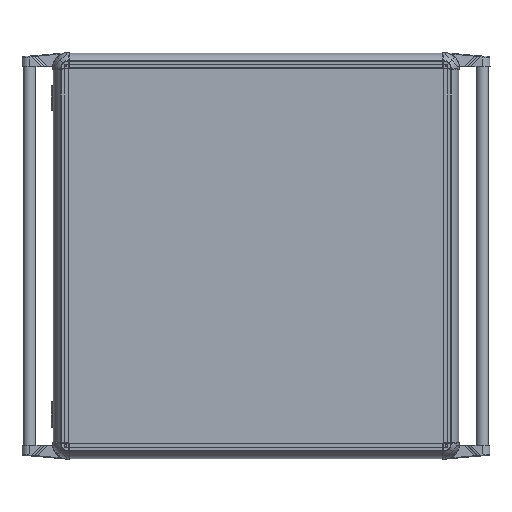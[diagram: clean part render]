
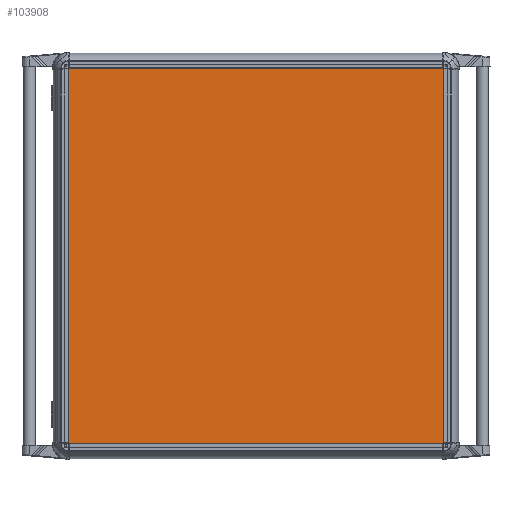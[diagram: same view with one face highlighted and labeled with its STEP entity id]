
A CAD part, top view. The second image highlights one B-rep face of the part: STEP entity #103908.
In plain terms, the highlighted planar face has unit normal (0, 0, 1).
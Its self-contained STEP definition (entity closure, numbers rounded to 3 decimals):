
#9688 = DIRECTION ( 'NONE',  ( -1., 0., 0. ) ) ;
#10844 = CARTESIAN_POINT ( 'NONE',  ( -300., 300., 2. ) ) ;
#15819 = EDGE_CURVE ( 'NONE', #150886, #168724, #156980, .T. ) ;
#16805 = PLANE ( 'NONE',  #185236 ) ;
#17828 = CARTESIAN_POINT ( 'NONE',  ( 300., -300., 2. ) ) ;
#24979 = DIRECTION ( 'NONE',  ( 0., -1., 0. ) ) ;
#26473 = VECTOR ( 'NONE', #124121, 1000. ) ;
#28148 = VECTOR ( 'NONE', #24979, 1000. ) ;
#28183 = VERTEX_POINT ( 'NONE', #45782 ) ;
#30675 = CARTESIAN_POINT ( 'NONE',  ( -300., -300., 2. ) ) ;
#41353 = CARTESIAN_POINT ( 'NONE',  ( 300., 300., 2. ) ) ;
#45782 = CARTESIAN_POINT ( 'NONE',  ( -300., 300., 2. ) ) ;
#53448 = CARTESIAN_POINT ( 'NONE',  ( 300., 300., 2. ) ) ;
#58456 = VERTEX_POINT ( 'NONE', #41353 ) ;
#72627 = ORIENTED_EDGE ( 'NONE', *, *, #209373, .T. ) ;
#78365 = LINE ( 'NONE', #185003, #28148 ) ;
#82852 = CARTESIAN_POINT ( 'NONE',  ( -300., -300., 2. ) ) ;
#87566 = DIRECTION ( 'NONE',  ( 0., 0., 1. ) ) ;
#103908 = ADVANCED_FACE ( 'NONE', ( #207046 ), #16805, .T. ) ;
#105493 = ORIENTED_EDGE ( 'NONE', *, *, #175076, .T. ) ;
#117379 = LINE ( 'NONE', #10844, #189972 ) ;
#119710 = VECTOR ( 'NONE', #191828, 1000. ) ;
#124121 = DIRECTION ( 'NONE',  ( 0., 1., 0. ) ) ;
#135715 = ORIENTED_EDGE ( 'NONE', *, *, #15819, .T. ) ;
#137364 = EDGE_CURVE ( 'NONE', #168724, #58456, #212328, .T. ) ;
#150886 = VERTEX_POINT ( 'NONE', #82852 ) ;
#155908 = DIRECTION ( 'NONE',  ( 1., 0., 0. ) ) ;
#156980 = LINE ( 'NONE', #30675, #119710 ) ;
#168724 = VERTEX_POINT ( 'NONE', #17828 ) ;
#170399 = EDGE_LOOP ( 'NONE', ( #181626, #105493, #72627, #135715 ) ) ;
#175076 = EDGE_CURVE ( 'NONE', #58456, #28183, #117379, .T. ) ;
#181626 = ORIENTED_EDGE ( 'NONE', *, *, #137364, .T. ) ;
#185003 = CARTESIAN_POINT ( 'NONE',  ( -300., 300., 2. ) ) ;
#185236 = AXIS2_PLACEMENT_3D ( 'NONE', #188510, #87566, #155908 ) ;
#188510 = CARTESIAN_POINT ( 'NONE',  ( 0., 0., 2. ) ) ;
#189972 = VECTOR ( 'NONE', #9688, 1000. ) ;
#191828 = DIRECTION ( 'NONE',  ( 1., 0., 0. ) ) ;
#207046 = FACE_OUTER_BOUND ( 'NONE', #170399, .T. ) ;
#209373 = EDGE_CURVE ( 'NONE', #28183, #150886, #78365, .T. ) ;
#212328 = LINE ( 'NONE', #53448, #26473 ) ;
